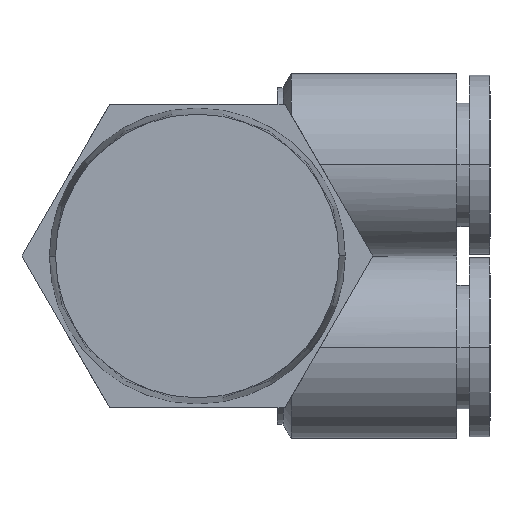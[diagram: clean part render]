
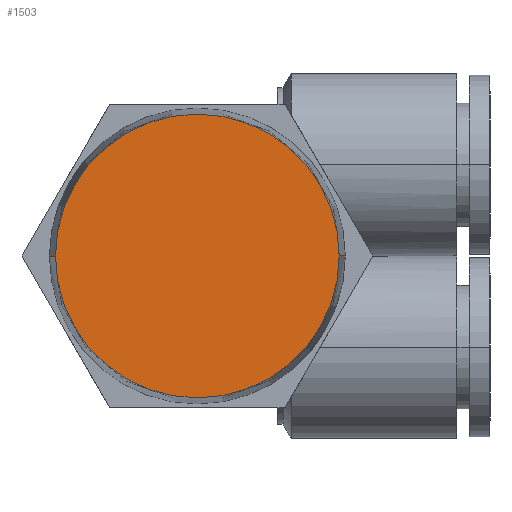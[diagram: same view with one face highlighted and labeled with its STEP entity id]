
A CAD part, front view. The second image highlights one B-rep face of the part: STEP entity #1503.
In plain terms, the highlighted planar face has unit normal (0, -1, 0).
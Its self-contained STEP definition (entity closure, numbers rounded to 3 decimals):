
#89 = CIRCLE ( 'NONE', #1858, 10.278 ) ;
#658 = CARTESIAN_POINT ( 'NONE',  ( 0., -6.4, 0. ) ) ;
#994 = CARTESIAN_POINT ( 'NONE',  ( -10.278, -6.4, 0. ) ) ;
#1002 = EDGE_CURVE ( 'NONE', #2547, #1167, #89, .T. ) ;
#1167 = VERTEX_POINT ( 'NONE', #994 ) ;
#1214 = EDGE_CURVE ( 'NONE', #1167, #2547, #1475, .T. ) ;
#1272 = DIRECTION ( 'NONE',  ( 0., 0., -1. ) ) ;
#1319 = CARTESIAN_POINT ( 'NONE',  ( 0., -6.4, 0. ) ) ;
#1383 = CARTESIAN_POINT ( 'NONE',  ( 10.278, -6.4, 0. ) ) ;
#1475 = CIRCLE ( 'NONE', #3869, 10.278 ) ;
#1478 = PLANE ( 'NONE',  #1922 ) ;
#1496 = DIRECTION ( 'NONE',  ( 0., 0., -1. ) ) ;
#1503 = ADVANCED_FACE ( 'NONE', ( #3820 ), #1478, .T. ) ;
#1746 = ORIENTED_EDGE ( 'NONE', *, *, #1214, .T. ) ;
#1858 = AXIS2_PLACEMENT_3D ( 'NONE', #658, #3066, #1272 ) ;
#1922 = AXIS2_PLACEMENT_3D ( 'NONE', #2645, #3274, #1496 ) ;
#2184 = ORIENTED_EDGE ( 'NONE', *, *, #1002, .T. ) ;
#2547 = VERTEX_POINT ( 'NONE', #1383 ) ;
#2611 = DIRECTION ( 'NONE',  ( 0., -1., 0. ) ) ;
#2645 = CARTESIAN_POINT ( 'NONE',  ( 11., -6.4, 22. ) ) ;
#3066 = DIRECTION ( 'NONE',  ( 0., -1., 0. ) ) ;
#3274 = DIRECTION ( 'NONE',  ( 0., -1., 0. ) ) ;
#3566 = EDGE_LOOP ( 'NONE', ( #1746, #2184 ) ) ;
#3808 = DIRECTION ( 'NONE',  ( 0., 0., -1. ) ) ;
#3820 = FACE_OUTER_BOUND ( 'NONE', #3566, .T. ) ;
#3869 = AXIS2_PLACEMENT_3D ( 'NONE', #1319, #2611, #3808 ) ;
